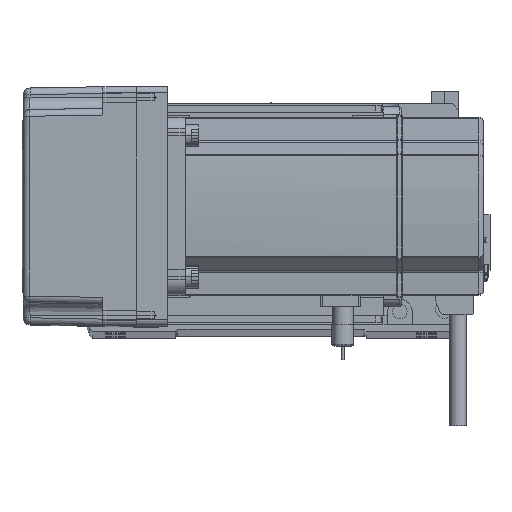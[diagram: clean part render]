
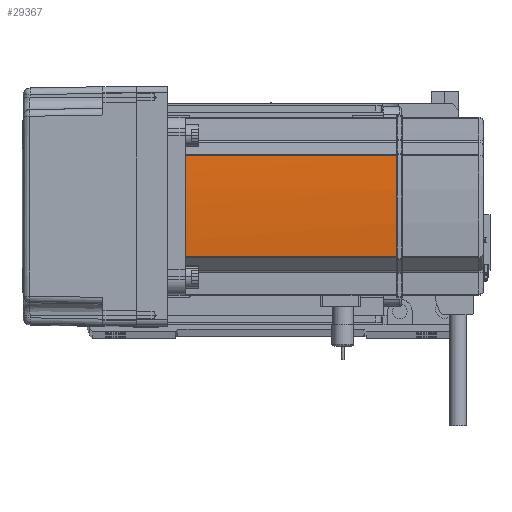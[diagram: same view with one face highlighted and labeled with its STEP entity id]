
A CAD part, top view. The second image highlights one B-rep face of the part: STEP entity #29367.
In plain terms, the highlighted cylindrical face has radius 270 mm (diameter 540 mm), a partial arc.
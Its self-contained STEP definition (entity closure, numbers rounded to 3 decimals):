
#2512 = VERTEX_POINT ( 'NONE', #36787 ) ;
#2740 = CARTESIAN_POINT ( 'NONE',  ( 39.042, -22.724, 134. ) ) ;
#6379 = DIRECTION ( 'NONE',  ( 0., 0., -1. ) ) ;
#8747 = CARTESIAN_POINT ( 'NONE',  ( 40., -0.042, 134. ) ) ;
#9174 = CARTESIAN_POINT ( 'NONE',  ( 40., 0.127, 134. ) ) ;
#10218 = ORIENTED_EDGE ( 'NONE', *, *, #29314, .F. ) ;
#11101 = DIRECTION ( 'NONE',  ( -1., 0., 0. ) ) ;
#11502 = ORIENTED_EDGE ( 'NONE', *, *, #47265, .T. ) ;
#13519 = CARTESIAN_POINT ( 'NONE',  ( 40., 0.042, 134. ) ) ;
#14544 = AXIS2_PLACEMENT_3D ( 'NONE', #53802, #16215, #25524 ) ;
#14632 = CIRCLE ( 'NONE', #14544, 270. ) ;
#14901 = LINE ( 'NONE', #26343, #25265 ) ;
#15684 = VERTEX_POINT ( 'NONE', #23791 ) ;
#15855 = CARTESIAN_POINT ( 'NONE',  ( -230., 0., 39. ) ) ;
#15932 = FACE_OUTER_BOUND ( 'NONE', #18535, .T. ) ;
#16215 = DIRECTION ( 'NONE',  ( 0., 0., -1. ) ) ;
#16992 = ORIENTED_EDGE ( 'NONE', *, *, #23259, .F. ) ;
#18535 = EDGE_LOOP ( 'NONE', ( #44579, #16992, #11502, #44664, #10218, #47712 ) ) ;
#21124 = DIRECTION ( 'NONE',  ( 0., 0., -1. ) ) ;
#21385 = LINE ( 'NONE', #40284, #24424 ) ;
#21411 = DIRECTION ( 'NONE',  ( 0., 0., -1. ) ) ;
#23259 = EDGE_CURVE ( 'NONE', #37927, #25637, #32158, .T. ) ;
#23791 = CARTESIAN_POINT ( 'NONE',  ( 40., 0.127, 134. ) ) ;
#24424 = VECTOR ( 'NONE', #21124, 1000. ) ;
#25265 = VECTOR ( 'NONE', #35453, 1000. ) ;
#25524 = DIRECTION ( 'NONE',  ( -1., 0., 0. ) ) ;
#25637 = VERTEX_POINT ( 'NONE', #44930 ) ;
#26343 = CARTESIAN_POINT ( 'NONE',  ( 39.042, 22.724, 58. ) ) ;
#27062 = EDGE_CURVE ( 'NONE', #59773, #25637, #21385, .T. ) ;
#27966 = CARTESIAN_POINT ( 'NONE',  ( 40., -0.127, 134. ) ) ;
#29314 = EDGE_CURVE ( 'NONE', #2512, #15684, #44150, .T. ) ;
#29367 = ADVANCED_FACE ( 'NONE', ( #15932 ), #34444, .T. ) ;
#30975 = AXIS2_PLACEMENT_3D ( 'NONE', #56005, #37664, #56837 ) ;
#31578 = CARTESIAN_POINT ( 'NONE',  ( 39.042, 22.724, 134. ) ) ;
#32158 = CIRCLE ( 'NONE', #36241, 270. ) ;
#34440 = AXIS2_PLACEMENT_3D ( 'NONE', #35475, #21411, #44916 ) ;
#34444 = CYLINDRICAL_SURFACE ( 'NONE', #30975, 270. ) ;
#35378 = EDGE_CURVE ( 'NONE', #56449, #15684, #56505, .T. ) ;
#35453 = DIRECTION ( 'NONE',  ( 0., 0., 1. ) ) ;
#35475 = CARTESIAN_POINT ( 'NONE',  ( -230., 0., 134. ) ) ;
#36241 = AXIS2_PLACEMENT_3D ( 'NONE', #15855, #6379, #11101 ) ;
#36787 = CARTESIAN_POINT ( 'NONE',  ( 40., -0.127, 134. ) ) ;
#37664 = DIRECTION ( 'NONE',  ( 0., 0., -1. ) ) ;
#37927 = VERTEX_POINT ( 'NONE', #55027 ) ;
#40284 = CARTESIAN_POINT ( 'NONE',  ( 39.042, -22.724, 58. ) ) ;
#44150 = B_SPLINE_CURVE_WITH_KNOTS ( 'NONE', 3,
 ( #27966, #8747, #13519, #9174 ),
 .UNSPECIFIED., .F., .F.,
 ( 4, 4 ),
 ( 0., 1. ),
 .UNSPECIFIED. ) ;
#44579 = ORIENTED_EDGE ( 'NONE', *, *, #27062, .T. ) ;
#44664 = ORIENTED_EDGE ( 'NONE', *, *, #35378, .T. ) ;
#44916 = DIRECTION ( 'NONE',  ( -1., 0., 0. ) ) ;
#44930 = CARTESIAN_POINT ( 'NONE',  ( 39.042, -22.724, 39. ) ) ;
#47265 = EDGE_CURVE ( 'NONE', #37927, #56449, #14901, .T. ) ;
#47712 = ORIENTED_EDGE ( 'NONE', *, *, #50863, .T. ) ;
#50863 = EDGE_CURVE ( 'NONE', #2512, #59773, #14632, .T. ) ;
#53802 = CARTESIAN_POINT ( 'NONE',  ( -230., 0., 134. ) ) ;
#55027 = CARTESIAN_POINT ( 'NONE',  ( 39.042, 22.724, 39. ) ) ;
#56005 = CARTESIAN_POINT ( 'NONE',  ( -230., 0., 58. ) ) ;
#56449 = VERTEX_POINT ( 'NONE', #31578 ) ;
#56505 = CIRCLE ( 'NONE', #34440, 270. ) ;
#56837 = DIRECTION ( 'NONE',  ( -1., 0., 0. ) ) ;
#59773 = VERTEX_POINT ( 'NONE', #2740 ) ;
